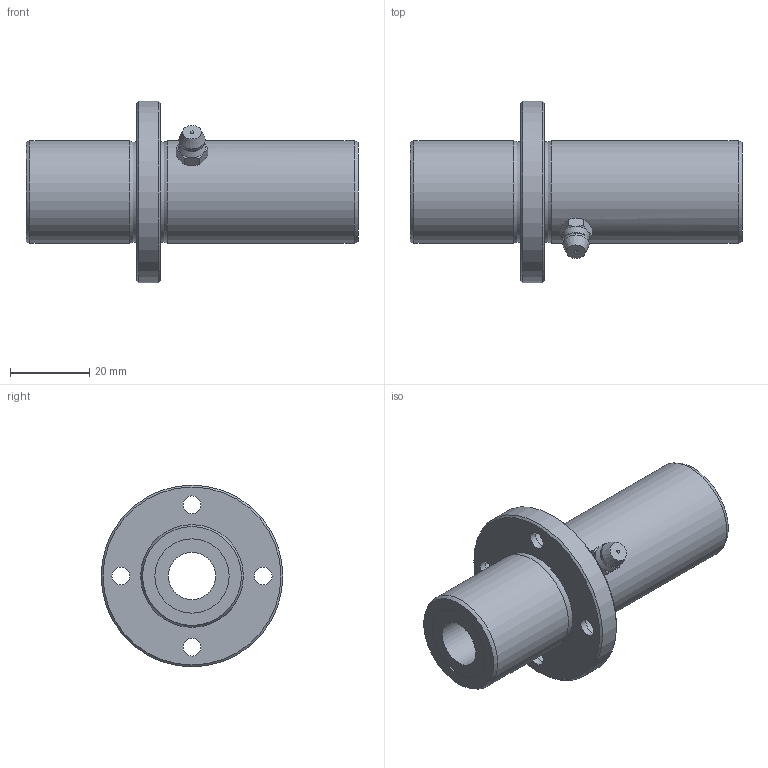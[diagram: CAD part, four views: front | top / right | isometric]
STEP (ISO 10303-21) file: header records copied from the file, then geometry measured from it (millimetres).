
FILE_DESCRIPTION((''),'2;1');
FILE_NAME('D:\製品 (図面)\カタログ用3D\リニアベアリング関連\STEP形式\LFLC\LFLC12.stp','2010-06-04T09:05:26',('Tsuchiya'),(''),'Autodesk Inventor 10','Autodesk Inventor 10','');
FILE_SCHEMA(('AUTOMOTIVE_DESIGN { 1 0 10303 214 1 1 1 1 }'));
Length unit declared in the file: millimetre
Products named in the file (1): LFLC12
Bounding box: 84 x 46 x 46 mm (x, y, z)
Volume: 41001 mm3; surface area: 13999.7 mm2
Topology: 1 solids, 1 shells, 59 faces, 117 edges, 70 vertices
Faces by surface type: plane 16, bspline 16, cone 15, cylinder 8, sphere 2, torus 2
Full cylindrical faces by diameter (mm): 12 x1, 18.8 x2, 26 x2, 46 x1
Entity records: 1803 total; most frequent: CARTESIAN_POINT 730, DIRECTION 210, ORIENTED_EDGE 184, EDGE_LOOP 104, AXIS2_PLACEMENT_3D 100, EDGE_CURVE 92, VERTEX_POINT 68, FACE_OUTER_BOUND 59
